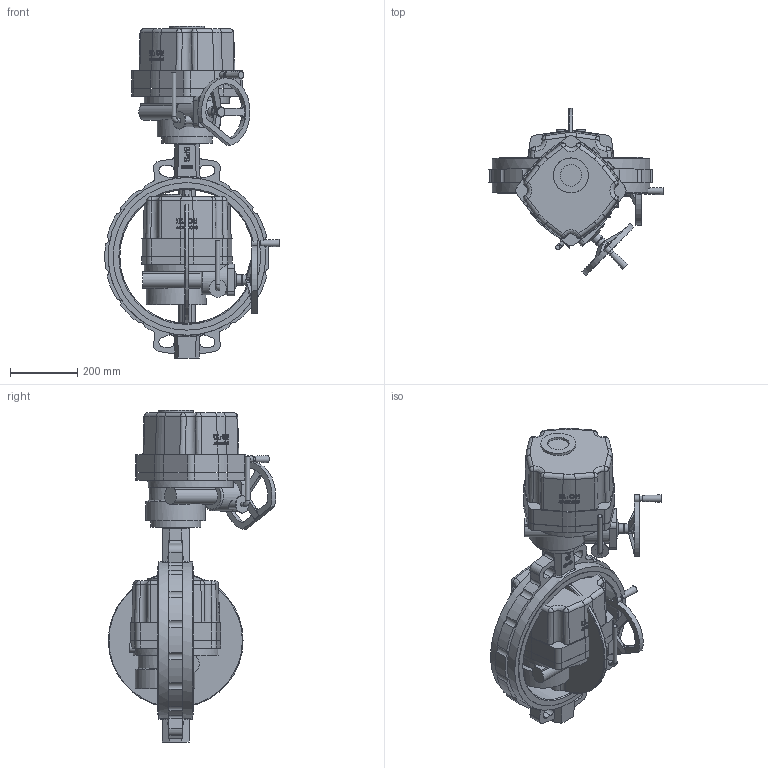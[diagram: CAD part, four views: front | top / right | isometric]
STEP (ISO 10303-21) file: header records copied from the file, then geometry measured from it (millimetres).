
FILE_DESCRIPTION( ( 'Unknown' ), '1' );
FILE_NAME( 'R:/ECCUA/ROOTSI BPS 3D vidinad/Poordklapid Wafer type/Butterfly valve(wafer) with electric actuator BPS/STEP formaat/BPS 2303400E(R) butterfly valve DN400.stp', 'Unknown', ( 'Unknown' ), ( 'Unknown' ), 'PSStep 10.1', 'Unknown', ' ' );
FILE_SCHEMA( ( 'AUTOMOTIVE_DESIGN { 1 0 10303 214 1 1 1 1 }' ) );
Length unit declared in the file: millimetre
Products named in the file (3): Assem1; Butterfly valve wafer type DN400 BPS; BPS 8005800 electric actuator DN400
Bounding box: 519.68 x 499.39 x 990 mm (x, y, z)
Volume: 51199622.5 mm3; surface area: 2818893.8 mm2
Topology: 4 solids, 4 shells, 1154 faces, 3080 edges, 2000 vertices
Faces by surface type: plane 426, cylinder 334, bspline 150, cone 100, extrusion 98, torus 30, sphere 16
Full cylindrical faces by diameter (mm): 10.106 x16, 13 x4, 13.835 x16, 14 x8, 15 x2, 18 x2, 25 x4, 27 x4, 30 x4, 45 x2, 52 x2, 64 x2, 104 x2, 150 x2, 159 x2, 178 x2, 400 x2, 440 x4, 470 x4
Entity records: 33194 total; most frequent: CARTESIAN_POINT 15360, ORIENTED_EDGE 2870, DIRECTION 2360, EDGE_CURVE 1435, VERTEX_POINT 976, AXIS2_PLACEMENT_3D 875, EDGE_LOOP 711, FACE_OUTER_BOUND 628
